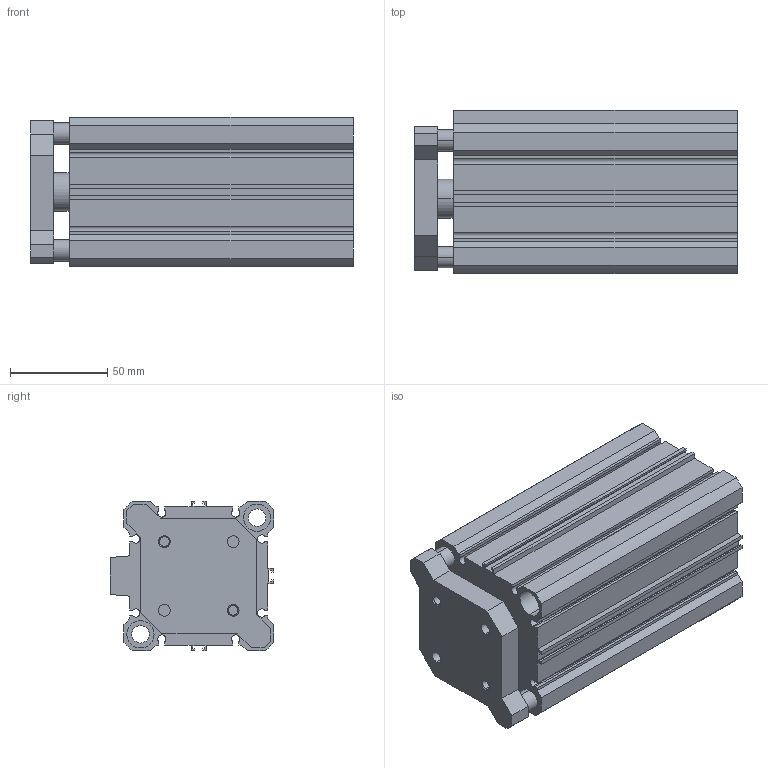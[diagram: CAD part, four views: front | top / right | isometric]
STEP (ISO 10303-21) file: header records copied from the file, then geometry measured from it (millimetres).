
FILE_DESCRIPTION (( 'STEP AP203' ), '1' );
FILE_NAME ('CCMG63-100.STEP', '2020-04-01T18:50:42', ( '' ), ( '' ), 'SwSTEP 2.0', 'SolidWorks 2019', '' );
FILE_SCHEMA (( 'CONFIG_CONTROL_DESIGN' ));
Length unit declared in the file: millimetre
Products named in the file (1): CCMG63-100
Bounding box: 166 x 84 x 77 mm (x, y, z)
Volume: 534525.8 mm3; surface area: 158145.4 mm2
Topology: 2 solids, 2 shells, 194 faces, 518 edges, 338 vertices
Faces by surface type: plane 114, cylinder 64, cone 16
Entity records: 6105 total; most frequent: CARTESIAN_POINT 1047, DIRECTION 1044, ORIENTED_EDGE 1028, EDGE_CURVE 514, VECTOR 374, LINE 374, VERTEX_POINT 338, AXIS2_PLACEMENT_3D 335
